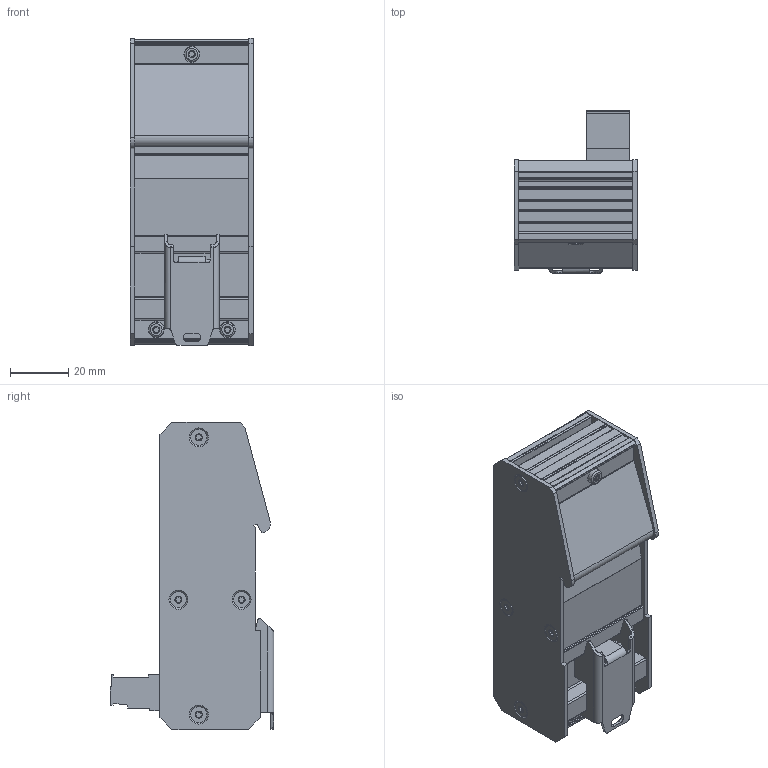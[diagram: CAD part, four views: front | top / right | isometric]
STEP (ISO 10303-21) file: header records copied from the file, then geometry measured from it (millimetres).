
FILE_DESCRIPTION(('TFLEX Exchange Step'),'2;1');
FILE_NAME('TZCA01701A_NITE-RF5-GE.stp', '2020-04-03T08:41:34+02:00',('User'),('Unknown organisation'),'TFLEX Exchange 2019.0','T-FLEX CAD','Unknown authorisation');
FILE_SCHEMA( ('AUTOMOTIVE_DESIGN { 1 0 10303 214 1 1 1 1 }') );
Length unit declared in the file: millimetre
Products named in the file (1): TZCA01701A_NITE-RF5-GE
Bounding box: 42.1 x 55.9 x 105 mm (x, y, z)
Volume: 125069.3 mm3; surface area: 39264.7 mm2
Topology: 36 solids, 42 shells, 1933 faces, 5295 edges, 3543 vertices
Faces by surface type: plane 1271, cylinder 499, bspline 114, torus 25, cone 19, extrusion 5
Full cylindrical faces by diameter (mm): 0.5 x40, 1.2 x12, 1.3 x3, 2.2 x3, 3 x11, 3.2 x4, 3.75 x3, 3.95 x3, 5 x3, 5.4 x3, 5.5 x8
Entity records: 71106 total; most frequent: CARTESIAN_POINT 23921, ORIENTED_EDGE 10590, DIRECTION 7951, EDGE_CURVE 5295, VERTEX_POINT 3543, AXIS2_PLACEMENT_3D 2873, VECTOR 2205, LINE 2200
